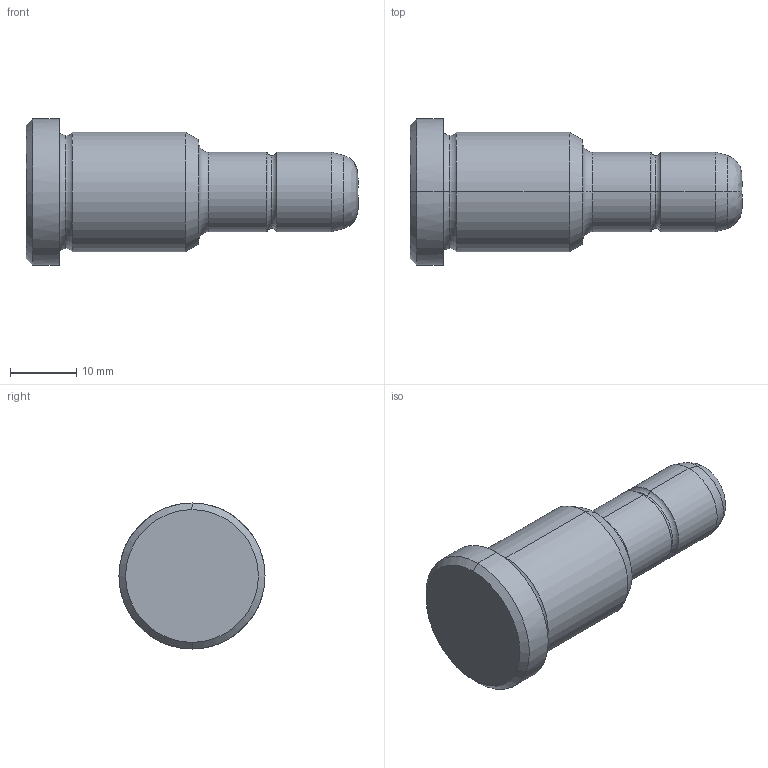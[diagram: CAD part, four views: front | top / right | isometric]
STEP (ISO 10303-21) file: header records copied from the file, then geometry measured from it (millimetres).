
FILE_DESCRIPTION(('CATIA V5 STEP Exchange'),'2;1');
FILE_NAME('C:\Users\Utente\Desktop\IO LAVORO\3D X SITO CF\X SITO\PLASTICA\351\351-12X26X50.stp','2021-08-17T12:12:17+00:00',('none'),('none'),'CATIA Version 5 Release 20 GA (IN-10)','CATIA V5 STEP AP203','none');
FILE_SCHEMA(('CONFIG_CONTROL_DESIGN'));
Length unit declared in the file: millimetre
Products named in the file (1): 351-12X26X50
Bounding box: 50 x 22 x 22 mm (x, y, z)
Volume: 9717.7 mm3; surface area: 3038 mm2
Topology: 1 solids, 1 shells, 30 faces, 86 edges, 60 vertices
Faces by surface type: torus 10, cylinder 8, cone 6, plane 4, bspline 2
Entity records: 1128 total; most frequent: CARTESIAN_POINT 343, ORIENTED_EDGE 172, DIRECTION 124, EDGE_CURVE 86, AXIS2_PLACEMENT_3D 83, VERTEX_POINT 60, CIRCLE 54, EDGE_LOOP 32
